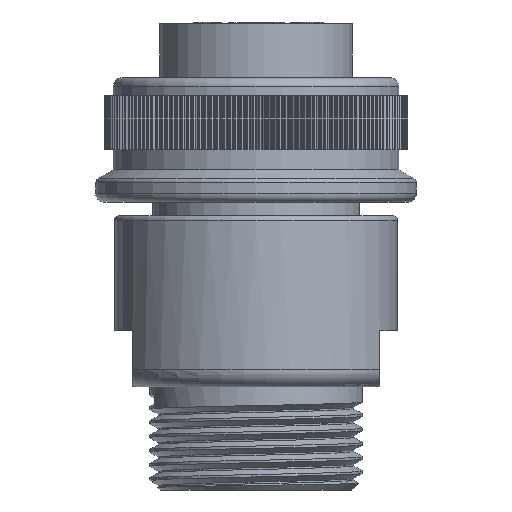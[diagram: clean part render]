
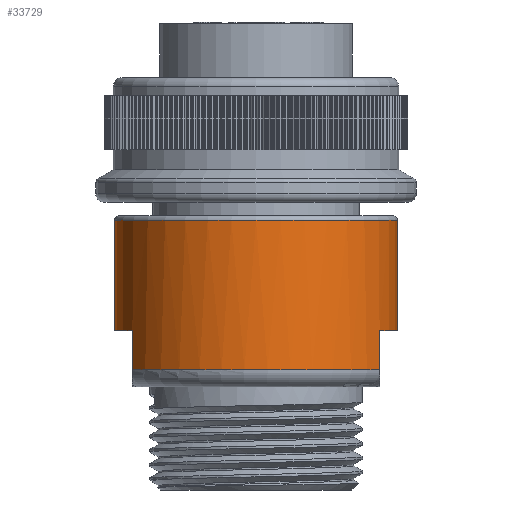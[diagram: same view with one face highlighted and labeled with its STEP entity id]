
A CAD part, front view. The second image highlights one B-rep face of the part: STEP entity #33729.
In plain terms, the highlighted cylindrical face has radius 12.59 mm (diameter 25.18 mm), a full revolution.
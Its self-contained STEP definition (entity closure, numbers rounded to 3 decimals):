
#601 = DIRECTION ( 'NONE',  ( -1., 0., 0. ) ) ;
#1246 = DIRECTION ( 'NONE',  ( 0., 0., -1. ) ) ;
#1264 = CARTESIAN_POINT ( 'NONE',  ( 1.056, 12.546, -19.814 ) ) ;
#1523 = CARTESIAN_POINT ( 'NONE',  ( 0.951, 12.556, -20.609 ) ) ;
#1651 = VERTEX_POINT ( 'NONE', #54547 ) ;
#2481 = CYLINDRICAL_SURFACE ( 'NONE', #31964, 12.59 ) ;
#4600 = EDGE_CURVE ( 'NONE', #44538, #65337, #49588, .T. ) ;
#5122 = EDGE_CURVE ( 'NONE', #14540, #65335, #15779, .T. ) ;
#6152 = FACE_OUTER_BOUND ( 'NONE', #17902, .T. ) ;
#6388 = CARTESIAN_POINT ( 'NONE',  ( 0.53, 12.581, -19.159 ) ) ;
#7134 = CARTESIAN_POINT ( 'NONE',  ( 0.283, 12.59, -19.055 ) ) ;
#7606 = EDGE_CURVE ( 'NONE', #65337, #53378, #71929, .T. ) ;
#9523 = CARTESIAN_POINT ( 'NONE',  ( -11., -6.124, -30.8 ) ) ;
#10144 = DIRECTION ( 'NONE',  ( 0., 0., 1. ) ) ;
#12547 = CARTESIAN_POINT ( 'NONE',  ( -0.283, 12.59, -19.055 ) ) ;
#12956 = EDGE_CURVE ( 'NONE', #49318, #65335, #13243, .T. ) ;
#13243 = LINE ( 'NONE', #46215, #32375 ) ;
#13421 = VECTOR ( 'NONE', #1246, 1000. ) ;
#14540 = VERTEX_POINT ( 'NONE', #18828 ) ;
#14770 = CARTESIAN_POINT ( 'NONE',  ( 0., 0., -10.884 ) ) ;
#15246 = CARTESIAN_POINT ( 'NONE',  ( 11., -6.124, -27.3 ) ) ;
#15779 = CIRCLE ( 'NONE', #72067, 12.59 ) ;
#16964 = ORIENTED_EDGE ( 'NONE', *, *, #7606, .T. ) ;
#17874 = CARTESIAN_POINT ( 'NONE',  ( 0., 0., -30.8 ) ) ;
#17902 = EDGE_LOOP ( 'NONE', ( #16964, #58296, #25219, #70023, #62387, #48722, #53919, #27426 ) ) ;
#18120 = DIRECTION ( 'NONE',  ( 0., 0., 1. ) ) ;
#18364 = CARTESIAN_POINT ( 'NONE',  ( 0., 12.59, -21.125 ) ) ;
#18828 = CARTESIAN_POINT ( 'NONE',  ( 11., 6.124, -30.8 ) ) ;
#19214 = CARTESIAN_POINT ( 'NONE',  ( 0., 0., -30.8 ) ) ;
#19815 = EDGE_CURVE ( 'NONE', #25581, #53378, #35303, .T. ) ;
#21150 = DIRECTION ( 'NONE',  ( 0., 0., -1. ) ) ;
#23693 = CARTESIAN_POINT ( 'NONE',  ( 0.951, 12.556, -19.572 ) ) ;
#23832 = DIRECTION ( 'NONE',  ( 1., 0., 0. ) ) ;
#23957 = CARTESIAN_POINT ( 'NONE',  ( -1.056, 12.546, -19.814 ) ) ;
#25219 = ORIENTED_EDGE ( 'NONE', *, *, #45590, .F. ) ;
#25301 = FACE_OUTER_BOUND ( 'NONE', #73776, .T. ) ;
#25441 = DIRECTION ( 'NONE',  ( 0., 0., -1. ) ) ;
#25581 = VERTEX_POINT ( 'NONE', #15246 ) ;
#25634 = ORIENTED_EDGE ( 'NONE', *, *, #46756, .T. ) ;
#26860 = CARTESIAN_POINT ( 'NONE',  ( -11., 6.124, -30.8 ) ) ;
#27426 = ORIENTED_EDGE ( 'NONE', *, *, #4600, .T. ) ;
#30450 = ORIENTED_EDGE ( 'NONE', *, *, #52452, .F. ) ;
#30854 = VERTEX_POINT ( 'NONE', #43089 ) ;
#31296 = EDGE_CURVE ( 'NONE', #44538, #49318, #59406, .T. ) ;
#31964 = AXIS2_PLACEMENT_3D ( 'NONE', #14770, #10144, #38956 ) ;
#32375 = VECTOR ( 'NONE', #51797, 1000. ) ;
#33307 = DIRECTION ( 'NONE',  ( 0., 0., -1. ) ) ;
#33415 = CARTESIAN_POINT ( 'NONE',  ( 0., 0., -27.3 ) ) ;
#33729 = ADVANCED_FACE ( 'NONE', ( #38071, #6152, #25301 ), #2481, .T. ) ;
#34944 = CARTESIAN_POINT ( 'NONE',  ( -11., 6.124, -27.3 ) ) ;
#35303 = LINE ( 'NONE', #48734, #13421 ) ;
#35571 = DIRECTION ( 'NONE',  ( 0., 0., -1. ) ) ;
#35997 = CARTESIAN_POINT ( 'NONE',  ( -1.056, 12.546, -20.367 ) ) ;
#36926 = CIRCLE ( 'NONE', #60089, 12.59 ) ;
#37907 = CARTESIAN_POINT ( 'NONE',  ( 11., 6.124, -27.3 ) ) ;
#38071 = FACE_BOUND ( 'NONE', #50339, .T. ) ;
#38956 = DIRECTION ( 'NONE',  ( 1., 0., 0. ) ) ;
#40936 = CARTESIAN_POINT ( 'NONE',  ( -11., -6.124, -27.3 ) ) ;
#40986 = VERTEX_POINT ( 'NONE', #37907 ) ;
#41960 = DIRECTION ( 'NONE',  ( 0., 0., 1. ) ) ;
#43089 = CARTESIAN_POINT ( 'NONE',  ( 0., 12.59, -21.125 ) ) ;
#44538 = VERTEX_POINT ( 'NONE', #40936 ) ;
#45590 = EDGE_CURVE ( 'NONE', #40986, #25581, #58064, .T. ) ;
#45904 = DIRECTION ( 'NONE',  ( 1., 0., 0. ) ) ;
#46215 = CARTESIAN_POINT ( 'NONE',  ( -11., 6.124, -27.3 ) ) ;
#46756 = EDGE_CURVE ( 'NONE', #30854, #30854, #54978, .T. ) ;
#47488 = CARTESIAN_POINT ( 'NONE',  ( 0.282, 12.59, -21.125 ) ) ;
#48722 = ORIENTED_EDGE ( 'NONE', *, *, #12956, .F. ) ;
#48726 = CARTESIAN_POINT ( 'NONE',  ( 11., 6.124, -27.3 ) ) ;
#48734 = CARTESIAN_POINT ( 'NONE',  ( 11., -6.124, -27.3 ) ) ;
#49318 = VERTEX_POINT ( 'NONE', #34944 ) ;
#49335 = LINE ( 'NONE', #48726, #62973 ) ;
#49588 = LINE ( 'NONE', #66724, #60508 ) ;
#50339 = EDGE_LOOP ( 'NONE', ( #25634 ) ) ;
#51797 = DIRECTION ( 'NONE',  ( 0., 0., -1. ) ) ;
#52426 = AXIS2_PLACEMENT_3D ( 'NONE', #52905, #35571, #601 ) ;
#52452 = EDGE_CURVE ( 'NONE', #1651, #1651, #36926, .T. ) ;
#52826 = CARTESIAN_POINT ( 'NONE',  ( -0.53, 12.581, -19.159 ) ) ;
#52905 = CARTESIAN_POINT ( 'NONE',  ( 0., 0., -27.3 ) ) ;
#53325 = CARTESIAN_POINT ( 'NONE',  ( -0.529, 12.581, -21.022 ) ) ;
#53378 = VERTEX_POINT ( 'NONE', #68147 ) ;
#53919 = ORIENTED_EDGE ( 'NONE', *, *, #31296, .F. ) ;
#54547 = CARTESIAN_POINT ( 'NONE',  ( 12.59, 0., -17.49 ) ) ;
#54978 = B_SPLINE_CURVE_WITH_KNOTS ( 'NONE', 3,
 ( #70648, #47488, #70401, #1523, #58669, #1264, #23693, #6388, #7134, #12547, #52826, #64538, #23957, #35997, #64773, #53325, #65284, #18364 ),
 .UNSPECIFIED., .T., .F.,
 ( 4, 2, 2, 2, 2, 2, 2, 2, 4 ),
 ( 0., 0.125, 0.25, 0.375, 0.5, 0.625, 0.75, 0.875, 1. ),
 .UNSPECIFIED. ) ;
#58064 = CIRCLE ( 'NONE', #67170, 12.59 ) ;
#58296 = ORIENTED_EDGE ( 'NONE', *, *, #19815, .F. ) ;
#58669 = CARTESIAN_POINT ( 'NONE',  ( 1.056, 12.546, -20.367 ) ) ;
#59406 = CIRCLE ( 'NONE', #52426, 12.59 ) ;
#60089 = AXIS2_PLACEMENT_3D ( 'NONE', #75436, #70325, #45904 ) ;
#60508 = VECTOR ( 'NONE', #33307, 1000. ) ;
#62387 = ORIENTED_EDGE ( 'NONE', *, *, #5122, .T. ) ;
#62910 = AXIS2_PLACEMENT_3D ( 'NONE', #19214, #41960, #23832 ) ;
#62973 = VECTOR ( 'NONE', #25441, 1000. ) ;
#64538 = CARTESIAN_POINT ( 'NONE',  ( -0.951, 12.556, -19.572 ) ) ;
#64773 = CARTESIAN_POINT ( 'NONE',  ( -0.951, 12.556, -20.609 ) ) ;
#65284 = CARTESIAN_POINT ( 'NONE',  ( -0.282, 12.59, -21.125 ) ) ;
#65335 = VERTEX_POINT ( 'NONE', #26860 ) ;
#65337 = VERTEX_POINT ( 'NONE', #9523 ) ;
#66724 = CARTESIAN_POINT ( 'NONE',  ( -11., -6.124, -27.3 ) ) ;
#67170 = AXIS2_PLACEMENT_3D ( 'NONE', #33415, #21150, #74205 ) ;
#68147 = CARTESIAN_POINT ( 'NONE',  ( 11., -6.124, -30.8 ) ) ;
#70023 = ORIENTED_EDGE ( 'NONE', *, *, #74514, .T. ) ;
#70325 = DIRECTION ( 'NONE',  ( 0., 0., 1. ) ) ;
#70401 = CARTESIAN_POINT ( 'NONE',  ( 0.529, 12.581, -21.022 ) ) ;
#70645 = DIRECTION ( 'NONE',  ( 1., 0., 0. ) ) ;
#70648 = CARTESIAN_POINT ( 'NONE',  ( 0., 12.59, -21.125 ) ) ;
#71929 = CIRCLE ( 'NONE', #62910, 12.59 ) ;
#72067 = AXIS2_PLACEMENT_3D ( 'NONE', #17874, #18120, #70645 ) ;
#73776 = EDGE_LOOP ( 'NONE', ( #30450 ) ) ;
#74205 = DIRECTION ( 'NONE',  ( -1., 0., 0. ) ) ;
#74514 = EDGE_CURVE ( 'NONE', #40986, #14540, #49335, .T. ) ;
#75436 = CARTESIAN_POINT ( 'NONE',  ( 0., 0., -17.49 ) ) ;
